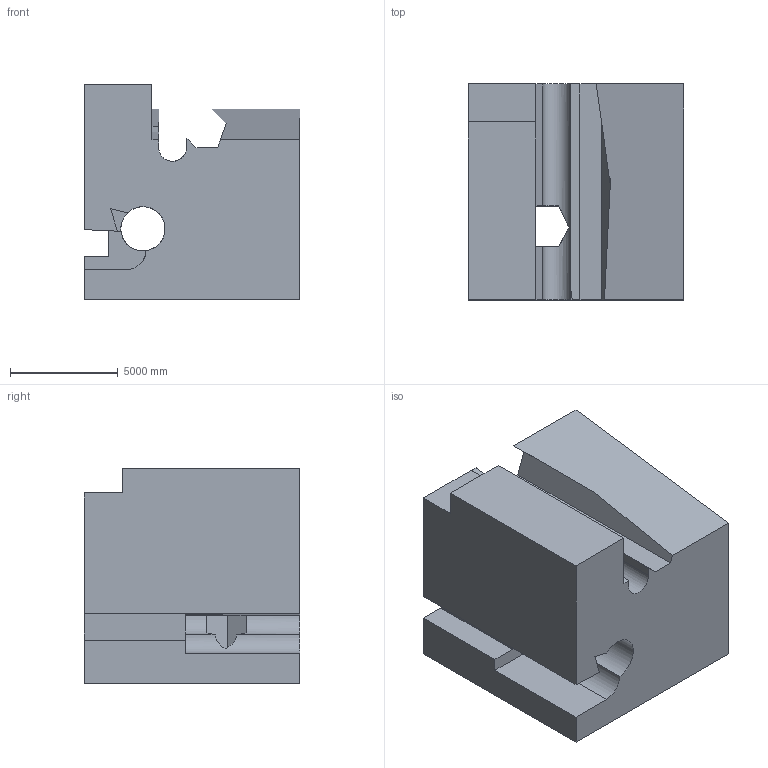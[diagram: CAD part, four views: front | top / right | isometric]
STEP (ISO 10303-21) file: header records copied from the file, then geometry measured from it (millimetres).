
FILE_DESCRIPTION (( 'STEP AP203' ), '1' );
FILE_NAME ('1971.STEP', '2022-08-25T16:54:48', ( 'user' ), ( '' ), 'SwSTEP 2.0', 'SolidWorks 2021', '' );
FILE_SCHEMA (( 'CONFIG_CONTROL_DESIGN' ));
Length unit declared in the file: centimetre
Products named in the file (1): 1971
Bounding box: 10000 x 10000 x 10000 mm (x, y, z)
Volume: 744370249561.4 mm3; surface area: 720063908.5 mm2
Topology: 1 solids, 1 shells, 50 faces, 152 edges, 101 vertices
Faces by surface type: plane 44, cylinder 6
Entity records: 1773 total; most frequent: CARTESIAN_POINT 337, ORIENTED_EDGE 304, DIRECTION 259, EDGE_CURVE 152, LINE 125, VECTOR 125, VERTEX_POINT 101, AXIS2_PLACEMENT_3D 67
